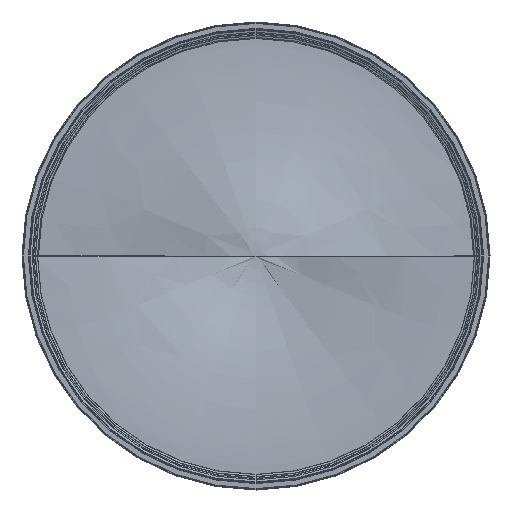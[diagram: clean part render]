
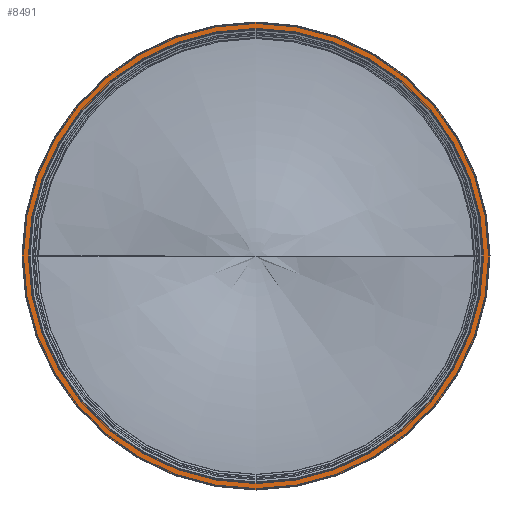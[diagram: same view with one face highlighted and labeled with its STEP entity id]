
A CAD part, front view. The second image highlights one B-rep face of the part: STEP entity #8491.
In plain terms, the highlighted planar face has unit normal (0, -1, 0).
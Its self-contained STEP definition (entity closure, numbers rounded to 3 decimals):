
#392 = PLANE ( 'NONE',  #9338 ) ;
#448 = DIRECTION ( 'NONE',  ( 0., 0., 1. ) ) ;
#499 = DIRECTION ( 'NONE',  ( 0., -1., 0. ) ) ;
#801 = DIRECTION ( 'NONE',  ( 0., 1., 0. ) ) ;
#1377 = DIRECTION ( 'NONE',  ( 0., 0., -1. ) ) ;
#2164 = ORIENTED_EDGE ( 'NONE', *, *, #4518, .F. ) ;
#2366 = DIRECTION ( 'NONE',  ( 0., 0., 1. ) ) ;
#2590 = VERTEX_POINT ( 'NONE', #5578 ) ;
#3093 = EDGE_CURVE ( 'NONE', #8116, #6597, #9634, .T. ) ;
#3495 = ORIENTED_EDGE ( 'NONE', *, *, #4139, .T. ) ;
#3782 = CARTESIAN_POINT ( 'NONE',  ( -297., -7.936, 0. ) ) ;
#3893 = VERTEX_POINT ( 'NONE', #5083 ) ;
#3955 = CARTESIAN_POINT ( 'NONE',  ( 0., -7.936, -288.142 ) ) ;
#4139 = EDGE_CURVE ( 'NONE', #6597, #8116, #9979, .T. ) ;
#4433 = DIRECTION ( 'NONE',  ( 0., 1., 0. ) ) ;
#4518 = EDGE_CURVE ( 'NONE', #3893, #2590, #8584, .T. ) ;
#4913 = CIRCLE ( 'NONE', #5716, 297. ) ;
#5083 = CARTESIAN_POINT ( 'NONE',  ( 0., -7.936, -297. ) ) ;
#5320 = EDGE_LOOP ( 'NONE', ( #8192, #3495 ) ) ;
#5347 = EDGE_LOOP ( 'NONE', ( #5372, #2164 ) ) ;
#5372 = ORIENTED_EDGE ( 'NONE', *, *, #6403, .F. ) ;
#5381 = AXIS2_PLACEMENT_3D ( 'NONE', #7231, #8953, #2366 ) ;
#5575 = FACE_OUTER_BOUND ( 'NONE', #5347, .T. ) ;
#5578 = CARTESIAN_POINT ( 'NONE',  ( 0., -7.936, 297. ) ) ;
#5716 = AXIS2_PLACEMENT_3D ( 'NONE', #6046, #6750, #6962 ) ;
#6046 = CARTESIAN_POINT ( 'NONE',  ( 0., -7.936, 0. ) ) ;
#6264 = CARTESIAN_POINT ( 'NONE',  ( 0., -7.936, 0. ) ) ;
#6403 = EDGE_CURVE ( 'NONE', #2590, #3893, #4913, .T. ) ;
#6597 = VERTEX_POINT ( 'NONE', #3955 ) ;
#6750 = DIRECTION ( 'NONE',  ( 0., 1., 0. ) ) ;
#6962 = DIRECTION ( 'NONE',  ( 0., 0., 1. ) ) ;
#7111 = FACE_BOUND ( 'NONE', #5320, .T. ) ;
#7177 = CARTESIAN_POINT ( 'NONE',  ( 0., -7.936, 0. ) ) ;
#7231 = CARTESIAN_POINT ( 'NONE',  ( 0., -7.936, 0. ) ) ;
#7337 = DIRECTION ( 'NONE',  ( 0., 0., 1. ) ) ;
#8109 = AXIS2_PLACEMENT_3D ( 'NONE', #6264, #4433, #448 ) ;
#8116 = VERTEX_POINT ( 'NONE', #10540 ) ;
#8192 = ORIENTED_EDGE ( 'NONE', *, *, #3093, .T. ) ;
#8491 = ADVANCED_FACE ( 'NONE', ( #7111, #5575 ), #392, .T. ) ;
#8584 = CIRCLE ( 'NONE', #8758, 297. ) ;
#8758 = AXIS2_PLACEMENT_3D ( 'NONE', #7177, #801, #7337 ) ;
#8953 = DIRECTION ( 'NONE',  ( 0., 1., 0. ) ) ;
#9338 = AXIS2_PLACEMENT_3D ( 'NONE', #3782, #499, #1377 ) ;
#9634 = CIRCLE ( 'NONE', #8109, 288.142 ) ;
#9979 = CIRCLE ( 'NONE', #5381, 288.142 ) ;
#10540 = CARTESIAN_POINT ( 'NONE',  ( 0., -7.936, 288.142 ) ) ;
